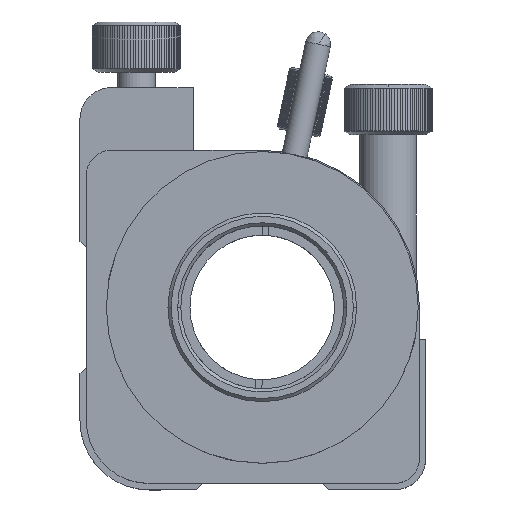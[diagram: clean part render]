
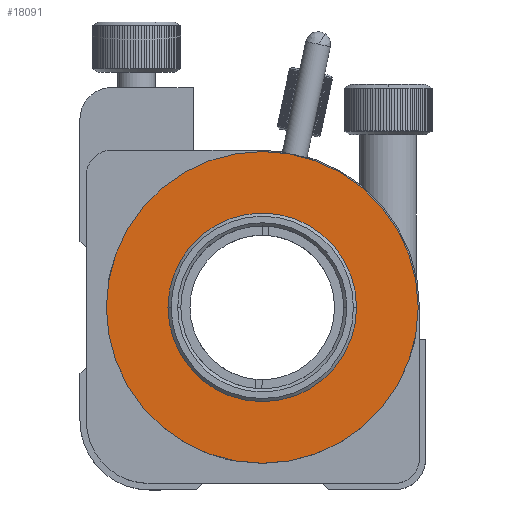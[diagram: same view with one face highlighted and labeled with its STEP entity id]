
A CAD part, top view. The second image highlights one B-rep face of the part: STEP entity #18091.
In plain terms, the highlighted planar face has unit normal (0, 0, 1).
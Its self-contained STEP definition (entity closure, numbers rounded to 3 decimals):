
#1560 = EDGE_CURVE ( 'NONE', #1561, #1562, #5537, .T. ) ;
#1561 = VERTEX_POINT ( 'NONE', #5533 ) ;
#1562 = VERTEX_POINT ( 'NONE', #5532 ) ;
#1749 = EDGE_CURVE ( 'NONE', #1750, #1751, #5856, .T. ) ;
#1750 = VERTEX_POINT ( 'NONE', #6126 ) ;
#1751 = VERTEX_POINT ( 'NONE', #6125 ) ;
#1892 = EDGE_CURVE ( 'NONE', #1751, #1750, #6443, .T. ) ;
#1973 = EDGE_CURVE ( 'NONE', #1562, #1561, #6597, .T. ) ;
#5532 = CARTESIAN_POINT ( 'NONE',  ( 2.26, 29.038, 28.059 ) ) ;
#5533 = CARTESIAN_POINT ( 'NONE',  ( 32.26, 29.038, 28.059 ) ) ;
#5534 = DIRECTION ( 'NONE',  ( -1., 0., 0. ) ) ;
#5535 = DIRECTION ( 'NONE',  ( 0., 0., -1. ) ) ;
#5536 = AXIS2_PLACEMENT_3D ( 'NONE', #5542, #5535, #5534 ) ;
#5537 = CIRCLE ( 'NONE', #5536, 15. ) ;
#5542 = CARTESIAN_POINT ( 'NONE',  ( 17.26, 29.038, 28.059 ) ) ;
#5852 = DIRECTION ( 'NONE',  ( -1., 0., 0. ) ) ;
#5853 = DIRECTION ( 'NONE',  ( 0., 0., -1. ) ) ;
#5854 = CARTESIAN_POINT ( 'NONE',  ( 17.26, 29.038, 28.059 ) ) ;
#5855 = AXIS2_PLACEMENT_3D ( 'NONE', #5854, #5853, #5852 ) ;
#5856 = CIRCLE ( 'NONE', #5855, 24.8 ) ;
#6125 = CARTESIAN_POINT ( 'NONE',  ( 42.06, 29.038, 28.059 ) ) ;
#6126 = CARTESIAN_POINT ( 'NONE',  ( -7.54, 29.038, 28.059 ) ) ;
#6440 = DIRECTION ( 'NONE',  ( -1., 0., 0. ) ) ;
#6441 = DIRECTION ( 'NONE',  ( 0., 0., -1. ) ) ;
#6442 = AXIS2_PLACEMENT_3D ( 'NONE', #6448, #6441, #6440 ) ;
#6443 = CIRCLE ( 'NONE', #6442, 24.8 ) ;
#6448 = CARTESIAN_POINT ( 'NONE',  ( 17.26, 29.038, 28.059 ) ) ;
#6594 = DIRECTION ( 'NONE',  ( -1., 0., 0. ) ) ;
#6595 = DIRECTION ( 'NONE',  ( 0., 0., -1. ) ) ;
#6596 = AXIS2_PLACEMENT_3D ( 'NONE', #6602, #6595, #6594 ) ;
#6597 = CIRCLE ( 'NONE', #6596, 15. ) ;
#6602 = CARTESIAN_POINT ( 'NONE',  ( 17.26, 29.038, 28.059 ) ) ;
#14688 = DIRECTION ( 'NONE',  ( 0., -1., 0. ) ) ;
#14689 = DIRECTION ( 'NONE',  ( 0., 0., 1. ) ) ;
#14690 = CARTESIAN_POINT ( 'NONE',  ( 17.26, 29.038, 28.059 ) ) ;
#14691 = AXIS2_PLACEMENT_3D ( 'NONE', #14690, #14689, #14688 ) ;
#14692 = PLANE ( 'NONE',  #14691 ) ;
#14693 = FACE_BOUND ( 'NONE', #18095, .T. ) ;
#14694 = FACE_OUTER_BOUND ( 'NONE', #18092, .T. ) ;
#18091 = ADVANCED_FACE ( 'NONE', ( #14694, #14693 ), #14692, .T. ) ;
#18092 = EDGE_LOOP ( 'NONE', ( #18093, #18094 ) ) ;
#18093 = ORIENTED_EDGE ( 'NONE', *, *, #1749, .F. ) ;
#18094 = ORIENTED_EDGE ( 'NONE', *, *, #1892, .F. ) ;
#18095 = EDGE_LOOP ( 'NONE', ( #18096, #18097 ) ) ;
#18096 = ORIENTED_EDGE ( 'NONE', *, *, #1973, .T. ) ;
#18097 = ORIENTED_EDGE ( 'NONE', *, *, #1560, .T. ) ;
